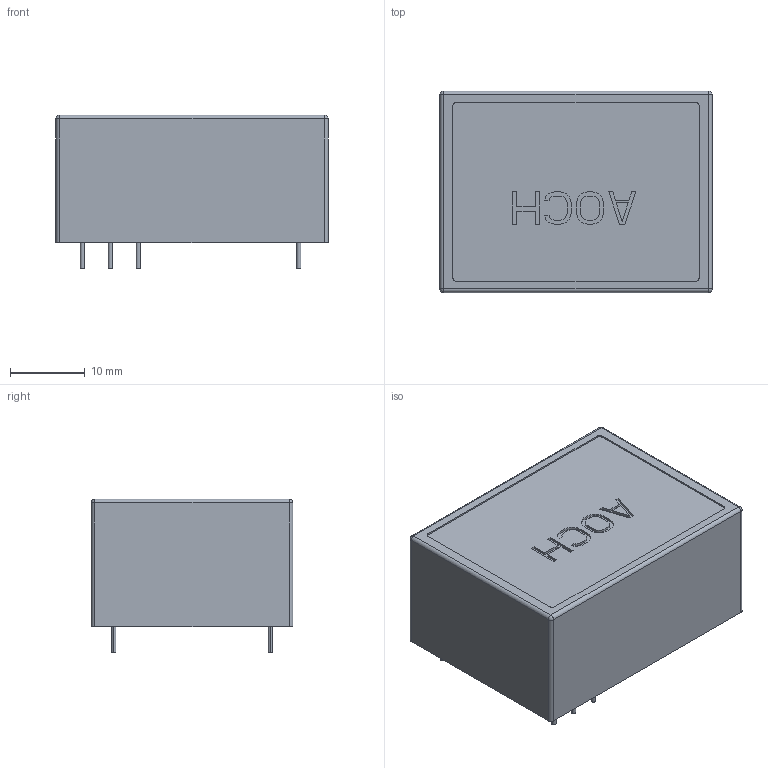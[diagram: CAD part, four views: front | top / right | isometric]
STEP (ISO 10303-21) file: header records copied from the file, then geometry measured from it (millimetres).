
FILE_DESCRIPTION((''),'2;1');
FILE_NAME('AOCH','2016-02-02T',('arch'),(''),'PRO/ENGINEER BY PARAMETRIC TECHNOLOGY CORPORATION, 2008380','PRO/ENGINEER BY PARAMETRIC TECHNOLOGY CORPORATION, 2008380','');
FILE_SCHEMA(('AUTOMOTIVE_DESIGN { 1 2 10303 214 0 1 1 1 }'));
Length unit declared in the file: millimetre
Products named in the file (1): AOCH
Bounding box: 36.5 x 27 x 20.6 mm (x, y, z)
Volume: 16682.5 mm3; surface area: 4189.1 mm2
Topology: 1 solids, 1 shells, 158 faces, 417 edges, 274 vertices
Faces by surface type: plane 130, cylinder 24, sphere 4
Entity records: 4891 total; most frequent: CARTESIAN_POINT 850, ORIENTED_EDGE 834, DIRECTION 781, EDGE_CURVE 417, VECTOR 369, LINE 369, VERTEX_POINT 274, AXIS2_PLACEMENT_3D 206
